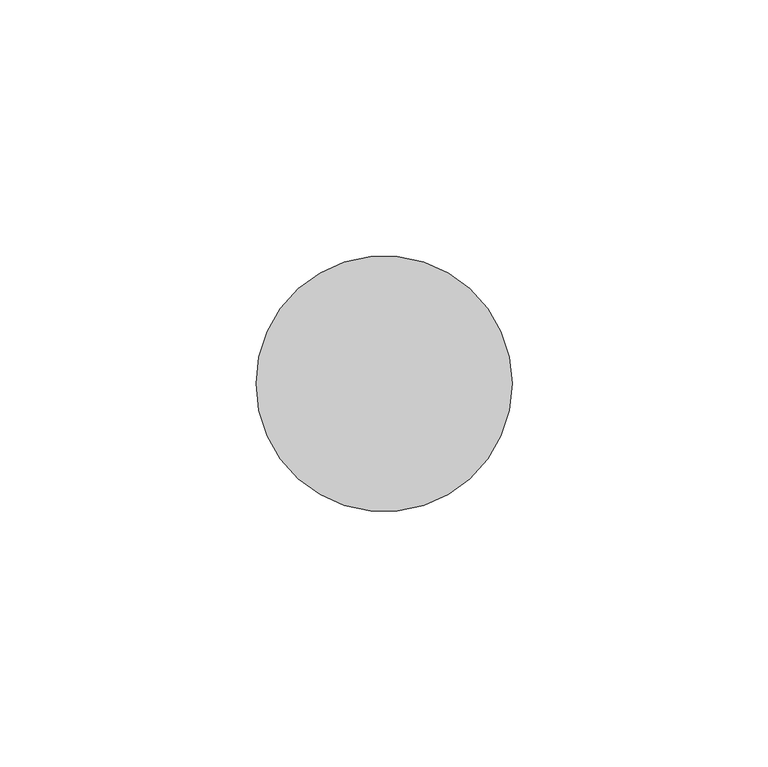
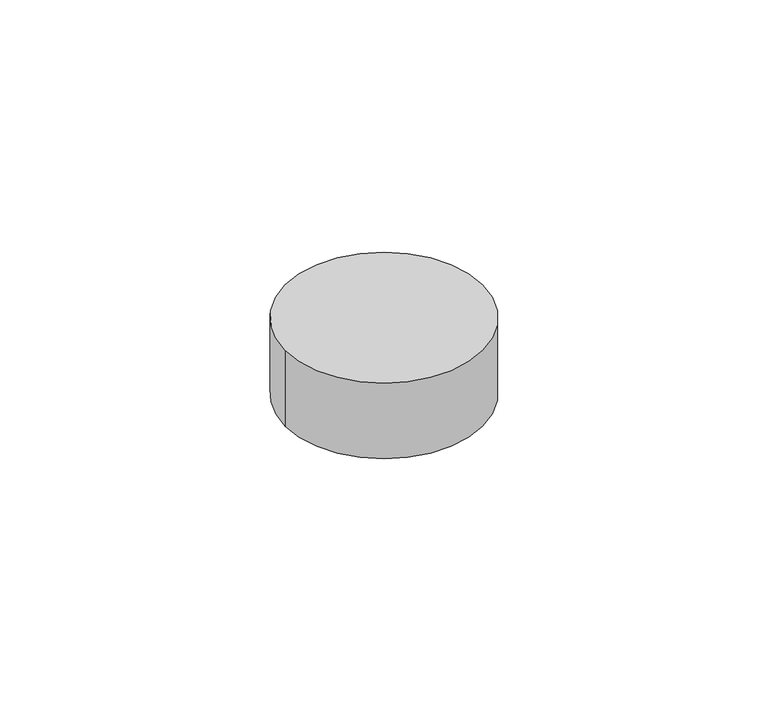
"""IFC4 building model written with IfcOpenShell, lengths in millimetres: member geometry, Импост круглого сечения : Радиус 25мм."""

from ifc_helpers import new_model, si_unit, point, frame, frame_2d, origin, place, context, project, spatial, circle_curve, trimmed, segment, composite_curve, outline, extrude, source, transform, mapped, element, save


def member_41b69e77(model_context):
    return source(origin(), model_context, "Body", "SweptSolid", [
        extrude(outline(composite_curve([segment(trimmed(circle_curve(frame_2d((-25.0, 0.0)), 25.0), [point((0.0, 0.0))], [point((-50.0, 0.0))], False, "CARTESIAN"), True, "CONTINUOUS"), segment(trimmed(circle_curve(frame_2d((-25.0, 0.0)), 25.0), [point((-50.0, 0.0))], [point((0.0, 0.0))], False, "CARTESIAN"), True, "CONTINUOUS")], self_intersect=False)), frame((0.0, 0.0, -20.2341111), z_axis=(0.0, 0.0, 1.0), x_axis=(1.0, 0.0, 0.0)), (0.0, 0.0, 1.0), 20.2341111),
    ])


if __name__ == "__main__":
    model = new_model("IFC4")
    model_context = context("Model", 3, world=origin())
    ifc_project = project(units=[si_unit("LENGTHUNIT", "METRE", prefix="MILLI")], contexts=[model_context])
    site = spatial("IfcSite", under=ifc_project)
    building = spatial("IfcBuilding", under=site)
    placement = place(None, origin())
    member_shape = member_41b69e77(model_context)
    element("IfcMember", 1, ObjectType="Импост круглого сечения : Радиус 25мм", at=placement, inside=building, context=model_context, shape_type="MappedRepresentation", body=[
        mapped(member_shape, transform((0.0, 0.0, 0.0), x_axis=(1.0, 0.0, 0.0), y_axis=(0.0, 1.0, 0.0), z_axis=(0.0, 0.0, 1.0))),
    ])
    save(model, "model.ifc")
